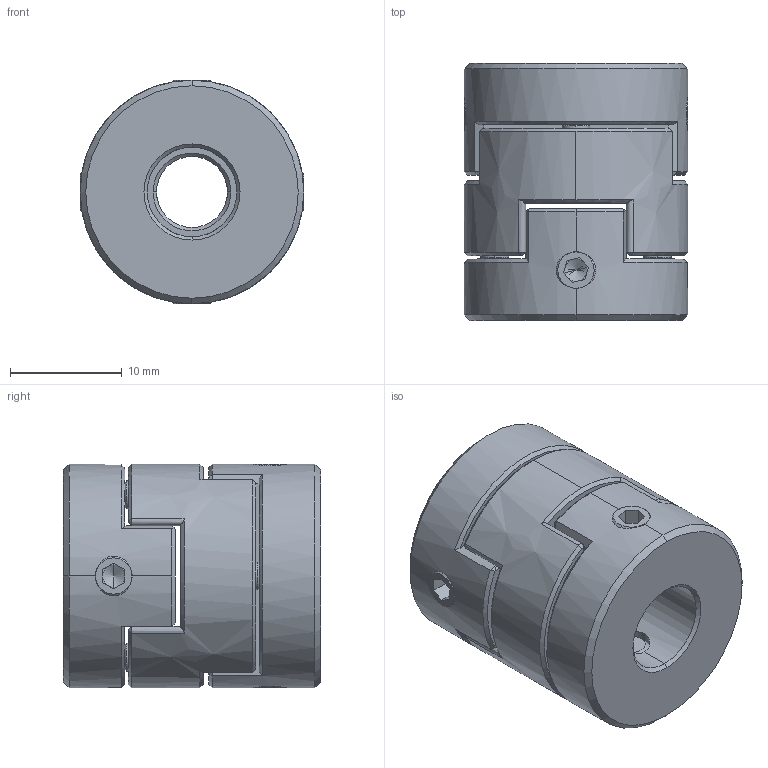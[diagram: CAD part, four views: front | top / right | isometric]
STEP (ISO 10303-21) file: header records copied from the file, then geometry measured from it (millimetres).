
FILE_DESCRIPTION (( 'STEP AP203' ), '1' );
FILE_NAME ('LZ-D-D20L23-6.35-8.STEP', '2021-10-30T01:45:56', ( '' ), ( '' ), 'SwSTEP 2.0', 'SolidWorks 2018', '' );
FILE_SCHEMA (( 'CONFIG_CONTROL_DESIGN' ));
Length unit declared in the file: millimetre
Products named in the file (1): LZ-D-D20L23-6.35-8
Bounding box: 20 x 23 x 20 mm (x, y, z)
Volume: 5940.8 mm3; surface area: 4112.6 mm2
Topology: 3 solids, 3 shells, 231 faces, 592 edges, 368 vertices
Faces by surface type: plane 117, cone 54, cylinder 34, bspline 26
Entity records: 9801 total; most frequent: CARTESIAN_POINT 4476, ORIENTED_EDGE 1168, DIRECTION 986, EDGE_CURVE 584, VERTEX_POINT 368, AXIS2_PLACEMENT_3D 360, LINE 266, VECTOR 266
